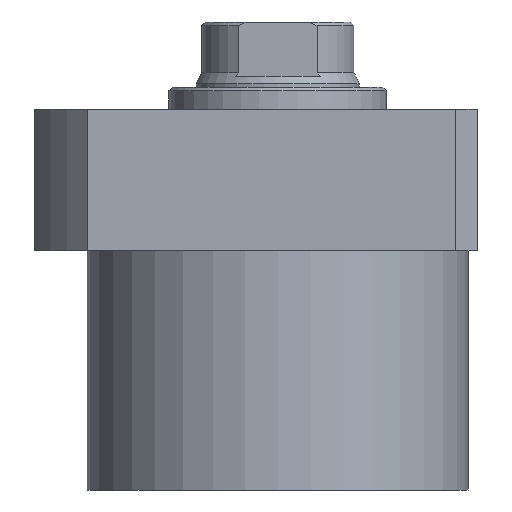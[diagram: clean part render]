
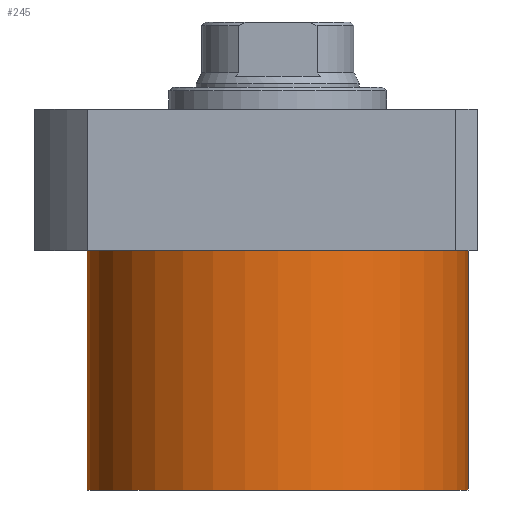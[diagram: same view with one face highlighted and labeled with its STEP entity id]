
A CAD part, front view. The second image highlights one B-rep face of the part: STEP entity #245.
In plain terms, the highlighted cylindrical face has radius 52.5 mm (diameter 105 mm), a partial arc.
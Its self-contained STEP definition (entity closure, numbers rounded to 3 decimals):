
#34 = DIRECTION ( 'NONE',  ( 0., 0., 1. ) ) ;
#70 = CIRCLE ( 'NONE', #318, 52.5 ) ;
#112 = ORIENTED_EDGE ( 'NONE', *, *, #1226, .F. ) ;
#118 = LINE ( 'NONE', #1179, #1635 ) ;
#134 = DIRECTION ( 'NONE',  ( 0., 0., 1. ) ) ;
#137 = DIRECTION ( 'NONE',  ( 0., 0., -1. ) ) ;
#145 = CARTESIAN_POINT ( 'NONE',  ( 0., 0., -19.5 ) ) ;
#245 = ADVANCED_FACE ( 'NONE', ( #370 ), #1012, .T. ) ;
#258 = VERTEX_POINT ( 'NONE', #1753 ) ;
#318 = AXIS2_PLACEMENT_3D ( 'NONE', #145, #137, #1306 ) ;
#370 = FACE_OUTER_BOUND ( 'NONE', #1241, .T. ) ;
#405 = CARTESIAN_POINT ( 'NONE',  ( 52.5, 0., -19.5 ) ) ;
#435 = EDGE_CURVE ( 'NONE', #258, #638, #1800, .T. ) ;
#441 = DIRECTION ( 'NONE',  ( 0., 0., 1. ) ) ;
#447 = ORIENTED_EDGE ( 'NONE', *, *, #435, .T. ) ;
#490 = AXIS2_PLACEMENT_3D ( 'NONE', #1882, #441, #715 ) ;
#628 = CARTESIAN_POINT ( 'NONE',  ( 52.5, 0., -85.5 ) ) ;
#638 = VERTEX_POINT ( 'NONE', #405 ) ;
#641 = ORIENTED_EDGE ( 'NONE', *, *, #718, .T. ) ;
#676 = VERTEX_POINT ( 'NONE', #711 ) ;
#711 = CARTESIAN_POINT ( 'NONE',  ( -52.5, 0., -19.5 ) ) ;
#715 = DIRECTION ( 'NONE',  ( 1., 0., 0. ) ) ;
#718 = EDGE_CURVE ( 'NONE', #638, #676, #70, .T. ) ;
#1012 = CYLINDRICAL_SURFACE ( 'NONE', #490, 52.5 ) ;
#1084 = ORIENTED_EDGE ( 'NONE', *, *, #1690, .F. ) ;
#1179 = CARTESIAN_POINT ( 'NONE',  ( -52.5, 0., -85.5 ) ) ;
#1226 = EDGE_CURVE ( 'NONE', #1802, #676, #118, .T. ) ;
#1241 = EDGE_LOOP ( 'NONE', ( #112, #1084, #447, #641 ) ) ;
#1291 = AXIS2_PLACEMENT_3D ( 'NONE', #1696, #1406, #1556 ) ;
#1306 = DIRECTION ( 'NONE',  ( 1., 0., 0. ) ) ;
#1406 = DIRECTION ( 'NONE',  ( 0., 0., -1. ) ) ;
#1556 = DIRECTION ( 'NONE',  ( -1., 0., 0. ) ) ;
#1602 = CARTESIAN_POINT ( 'NONE',  ( -52.5, 0., -85.5 ) ) ;
#1610 = VECTOR ( 'NONE', #34, 1000. ) ;
#1635 = VECTOR ( 'NONE', #134, 1000. ) ;
#1690 = EDGE_CURVE ( 'NONE', #258, #1802, #1793, .T. ) ;
#1696 = CARTESIAN_POINT ( 'NONE',  ( 0., 0., -85.5 ) ) ;
#1753 = CARTESIAN_POINT ( 'NONE',  ( 52.5, 0., -85.5 ) ) ;
#1793 = CIRCLE ( 'NONE', #1291, 52.5 ) ;
#1800 = LINE ( 'NONE', #628, #1610 ) ;
#1802 = VERTEX_POINT ( 'NONE', #1602 ) ;
#1882 = CARTESIAN_POINT ( 'NONE',  ( 0., 0., -85.5 ) ) ;
